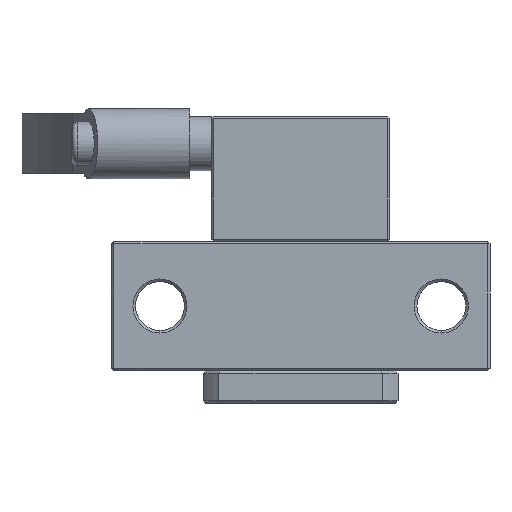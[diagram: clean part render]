
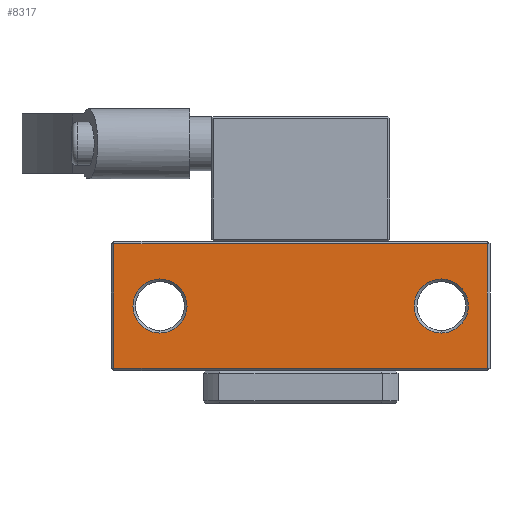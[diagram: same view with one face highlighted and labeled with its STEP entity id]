
A CAD part, front view. The second image highlights one B-rep face of the part: STEP entity #8317.
In plain terms, the highlighted planar face has unit normal (0, -1, 0).
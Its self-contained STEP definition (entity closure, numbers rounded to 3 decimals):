
#206 = ORIENTED_EDGE ( 'NONE', *, *, #5240, .F. ) ;
#573 = DIRECTION ( 'NONE',  ( 1., 0., 0. ) ) ;
#774 = EDGE_CURVE ( 'NONE', #3075, #20326, #1507, .T. ) ;
#978 = VECTOR ( 'NONE', #19619, 1000. ) ;
#1196 = CARTESIAN_POINT ( 'NONE',  ( -35., 0., -11.5 ) ) ;
#1241 = CARTESIAN_POINT ( 'NONE',  ( 34.5, 0., 11.5 ) ) ;
#1279 = EDGE_CURVE ( 'NONE', #6794, #11008, #8052, .T. ) ;
#1422 = CIRCLE ( 'NONE', #9667, 5. ) ;
#1507 = CIRCLE ( 'NONE', #12171, 5. ) ;
#1537 = VECTOR ( 'NONE', #5134, 1000. ) ;
#1788 = DIRECTION ( 'NONE',  ( 0., -1., 0. ) ) ;
#1987 = CARTESIAN_POINT ( 'NONE',  ( 34.5, 0., -11.5 ) ) ;
#2285 = AXIS2_PLACEMENT_3D ( 'NONE', #17827, #3228, #6465 ) ;
#2796 = CIRCLE ( 'NONE', #20598, 5. ) ;
#3075 = VERTEX_POINT ( 'NONE', #14007 ) ;
#3228 = DIRECTION ( 'NONE',  ( 0., 1., 0. ) ) ;
#3325 = EDGE_LOOP ( 'NONE', ( #18966, #206 ) ) ;
#3382 = CARTESIAN_POINT ( 'NONE',  ( 26., 0., 0. ) ) ;
#4122 = FACE_BOUND ( 'NONE', #14548, .T. ) ;
#4433 = ORIENTED_EDGE ( 'NONE', *, *, #17931, .F. ) ;
#4594 = LINE ( 'NONE', #14783, #978 ) ;
#4712 = VERTEX_POINT ( 'NONE', #16072 ) ;
#4756 = CARTESIAN_POINT ( 'NONE',  ( -26., 0., 5. ) ) ;
#5134 = DIRECTION ( 'NONE',  ( 0., 0., -1. ) ) ;
#5168 = FACE_OUTER_BOUND ( 'NONE', #18511, .T. ) ;
#5240 = EDGE_CURVE ( 'NONE', #20326, #3075, #17598, .T. ) ;
#5250 = ORIENTED_EDGE ( 'NONE', *, *, #19016, .F. ) ;
#6189 = ORIENTED_EDGE ( 'NONE', *, *, #7751, .F. ) ;
#6465 = DIRECTION ( 'NONE',  ( 1., 0., 0. ) ) ;
#6794 = VERTEX_POINT ( 'NONE', #1241 ) ;
#7320 = AXIS2_PLACEMENT_3D ( 'NONE', #3382, #1788, #11459 ) ;
#7426 = CARTESIAN_POINT ( 'NONE',  ( -35., 0., 11.5 ) ) ;
#7728 = DIRECTION ( 'NONE',  ( -1., 0., 0. ) ) ;
#7751 = EDGE_CURVE ( 'NONE', #11008, #4712, #19202, .T. ) ;
#7931 = EDGE_CURVE ( 'NONE', #4712, #9910, #4594, .T. ) ;
#8052 = LINE ( 'NONE', #19830, #1537 ) ;
#8317 = ADVANCED_FACE ( 'NONE', ( #4122, #10715, #5168 ), #13328, .F. ) ;
#8527 = CARTESIAN_POINT ( 'NONE',  ( -26., 0., -5. ) ) ;
#9667 = AXIS2_PLACEMENT_3D ( 'NONE', #20589, #18891, #18792 ) ;
#9910 = VERTEX_POINT ( 'NONE', #19656 ) ;
#10423 = ORIENTED_EDGE ( 'NONE', *, *, #1279, .F. ) ;
#10715 = FACE_BOUND ( 'NONE', #3325, .T. ) ;
#11008 = VERTEX_POINT ( 'NONE', #1987 ) ;
#11093 = ORIENTED_EDGE ( 'NONE', *, *, #12629, .F. ) ;
#11459 = DIRECTION ( 'NONE',  ( 0., 0., -1. ) ) ;
#11577 = DIRECTION ( 'NONE',  ( 0., 0., -1. ) ) ;
#11781 = DIRECTION ( 'NONE',  ( 0., -1., 0. ) ) ;
#12171 = AXIS2_PLACEMENT_3D ( 'NONE', #17659, #12941, #11577 ) ;
#12629 = EDGE_CURVE ( 'NONE', #9910, #6794, #20506, .T. ) ;
#12941 = DIRECTION ( 'NONE',  ( 0., -1., 0. ) ) ;
#13259 = ORIENTED_EDGE ( 'NONE', *, *, #7931, .F. ) ;
#13328 = PLANE ( 'NONE',  #2285 ) ;
#14007 = CARTESIAN_POINT ( 'NONE',  ( 26., 0., -5. ) ) ;
#14548 = EDGE_LOOP ( 'NONE', ( #5250, #4433 ) ) ;
#14649 = DIRECTION ( 'NONE',  ( 0., 0., -1. ) ) ;
#14783 = CARTESIAN_POINT ( 'NONE',  ( -34.5, 0., 12. ) ) ;
#16072 = CARTESIAN_POINT ( 'NONE',  ( -34.5, 0., -11.5 ) ) ;
#16479 = CARTESIAN_POINT ( 'NONE',  ( -26., 0., 0. ) ) ;
#16741 = VERTEX_POINT ( 'NONE', #4756 ) ;
#17598 = CIRCLE ( 'NONE', #7320, 5. ) ;
#17659 = CARTESIAN_POINT ( 'NONE',  ( 26., 0., 0. ) ) ;
#17827 = CARTESIAN_POINT ( 'NONE',  ( -35., 0., 12. ) ) ;
#17931 = EDGE_CURVE ( 'NONE', #16741, #18876, #2796, .T. ) ;
#18511 = EDGE_LOOP ( 'NONE', ( #6189, #10423, #11093, #13259 ) ) ;
#18792 = DIRECTION ( 'NONE',  ( 0., 0., -1. ) ) ;
#18876 = VERTEX_POINT ( 'NONE', #8527 ) ;
#18891 = DIRECTION ( 'NONE',  ( 0., -1., 0. ) ) ;
#18966 = ORIENTED_EDGE ( 'NONE', *, *, #774, .F. ) ;
#19016 = EDGE_CURVE ( 'NONE', #18876, #16741, #1422, .T. ) ;
#19202 = LINE ( 'NONE', #1196, #20812 ) ;
#19619 = DIRECTION ( 'NONE',  ( 0., 0., 1. ) ) ;
#19656 = CARTESIAN_POINT ( 'NONE',  ( -34.5, 0., 11.5 ) ) ;
#19830 = CARTESIAN_POINT ( 'NONE',  ( 34.5, 0., 12. ) ) ;
#20326 = VERTEX_POINT ( 'NONE', #20359 ) ;
#20359 = CARTESIAN_POINT ( 'NONE',  ( 26., 0., 5. ) ) ;
#20506 = LINE ( 'NONE', #7426, #21119 ) ;
#20589 = CARTESIAN_POINT ( 'NONE',  ( -26., 0., 0. ) ) ;
#20598 = AXIS2_PLACEMENT_3D ( 'NONE', #16479, #11781, #14649 ) ;
#20812 = VECTOR ( 'NONE', #7728, 1000. ) ;
#21119 = VECTOR ( 'NONE', #573, 1000. ) ;
